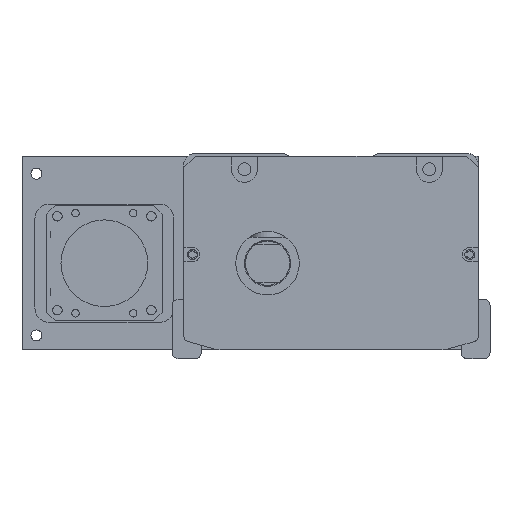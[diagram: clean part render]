
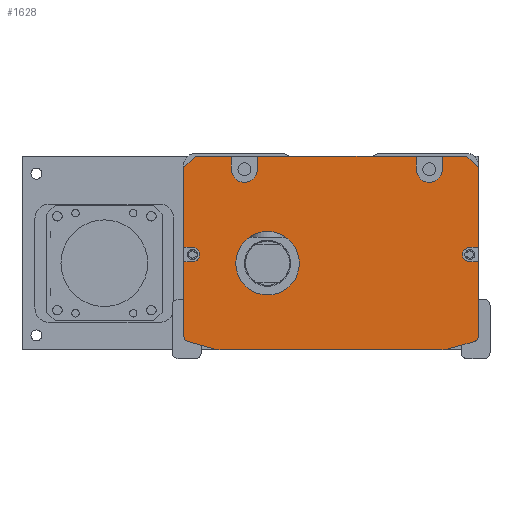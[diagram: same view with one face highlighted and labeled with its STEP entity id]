
A CAD part, front view. The second image highlights one B-rep face of the part: STEP entity #1628.
In plain terms, the highlighted planar face has unit normal (0, -1, 0).
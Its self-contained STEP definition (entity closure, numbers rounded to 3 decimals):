
#1628=ADVANCED_FACE('',(#4292,#4293),#2306,.F.);
#2306=PLANE('',#13565);
#2604=LINE('',#18821,#3405);
#2608=LINE('',#18829,#3409);
#2618=LINE('',#18850,#3419);
#2622=LINE('',#18858,#3423);
#2891=LINE('',#19851,#3692);
#2892=LINE('',#19853,#3693);
#2893=LINE('',#19855,#3694);
#2894=LINE('',#19859,#3695);
#2895=LINE('',#19861,#3696);
#2896=LINE('',#19863,#3697);
#2897=LINE('',#19867,#3698);
#2898=LINE('',#19869,#3699);
#2899=LINE('',#19871,#3700);
#2900=LINE('',#19872,#3701);
#2901=LINE('',#19876,#3702);
#2902=LINE('',#19879,#3703);
#2903=LINE('',#19883,#3704);
#2904=LINE('',#19887,#3705);
#2905=LINE('',#19890,#3706);
#2906=LINE('',#19894,#3707);
#3405=VECTOR('',#14809,1.);
#3409=VECTOR('',#14813,1.);
#3419=VECTOR('',#14825,1.);
#3423=VECTOR('',#14829,1.);
#3692=VECTOR('',#15894,1.);
#3693=VECTOR('',#15895,1.);
#3694=VECTOR('',#15896,1.);
#3695=VECTOR('',#15899,1.);
#3696=VECTOR('',#15900,1.);
#3697=VECTOR('',#15901,1.);
#3698=VECTOR('',#15904,1.);
#3699=VECTOR('',#15905,1.);
#3700=VECTOR('',#15906,1.);
#3701=VECTOR('',#15907,1.);
#3702=VECTOR('',#15910,1.);
#3703=VECTOR('',#15913,1.);
#3704=VECTOR('',#15916,1.);
#3705=VECTOR('',#15919,1.);
#3706=VECTOR('',#15922,1.);
#3707=VECTOR('',#15925,1.);
#4292=FACE_BOUND('',#4996,.T.);
#4293=FACE_BOUND('',#4997,.T.);
#4996=EDGE_LOOP('',(#6874,#6875,#6876,#6877,#6878,#6879,#6880,#6881,#6882,
#6883,#6884,#6885,#6886,#6887,#6888,#6889,#6890,#6891,#6892,#6893,#6894,
#6895,#6896,#6897,#6898,#6899,#6900,#6901));
#4997=EDGE_LOOP('',(#6902));
#6874=ORIENTED_EDGE('',*,*,#10758,.T.);
#6875=ORIENTED_EDGE('',*,*,#11242,.T.);
#6876=ORIENTED_EDGE('',*,*,#11243,.T.);
#6877=ORIENTED_EDGE('',*,*,#11244,.F.);
#6878=ORIENTED_EDGE('',*,*,#11245,.T.);
#6879=ORIENTED_EDGE('',*,*,#11246,.F.);
#6880=ORIENTED_EDGE('',*,*,#11247,.T.);
#6881=ORIENTED_EDGE('',*,*,#11248,.F.);
#6882=ORIENTED_EDGE('',*,*,#11249,.T.);
#6883=ORIENTED_EDGE('',*,*,#11250,.F.);
#6884=ORIENTED_EDGE('',*,*,#11251,.T.);
#6885=ORIENTED_EDGE('',*,*,#11252,.T.);
#6886=ORIENTED_EDGE('',*,*,#10776,.T.);
#6887=ORIENTED_EDGE('',*,*,#11253,.T.);
#6888=ORIENTED_EDGE('',*,*,#11254,.T.);
#6889=ORIENTED_EDGE('',*,*,#11255,.T.);
#6890=ORIENTED_EDGE('',*,*,#10772,.T.);
#6891=ORIENTED_EDGE('',*,*,#11256,.T.);
#6892=ORIENTED_EDGE('',*,*,#11257,.T.);
#6893=ORIENTED_EDGE('',*,*,#11258,.T.);
#6894=ORIENTED_EDGE('',*,*,#11259,.T.);
#6895=ORIENTED_EDGE('',*,*,#11260,.T.);
#6896=ORIENTED_EDGE('',*,*,#11261,.T.);
#6897=ORIENTED_EDGE('',*,*,#11262,.T.);
#6898=ORIENTED_EDGE('',*,*,#10762,.T.);
#6899=ORIENTED_EDGE('',*,*,#11263,.T.);
#6900=ORIENTED_EDGE('',*,*,#11264,.T.);
#6901=ORIENTED_EDGE('',*,*,#11265,.T.);
#6902=ORIENTED_EDGE('',*,*,#11266,.T.);
#9483=VERTEX_POINT('',#18820);
#9484=VERTEX_POINT('',#18822);
#9487=VERTEX_POINT('',#18828);
#9488=VERTEX_POINT('',#18830);
#9497=VERTEX_POINT('',#18849);
#9498=VERTEX_POINT('',#18851);
#9501=VERTEX_POINT('',#18857);
#9502=VERTEX_POINT('',#18859);
#9828=VERTEX_POINT('',#19852);
#9829=VERTEX_POINT('',#19854);
#9830=VERTEX_POINT('',#19856);
#9831=VERTEX_POINT('',#19858);
#9832=VERTEX_POINT('',#19860);
#9833=VERTEX_POINT('',#19862);
#9834=VERTEX_POINT('',#19864);
#9835=VERTEX_POINT('',#19866);
#9836=VERTEX_POINT('',#19868);
#9837=VERTEX_POINT('',#19870);
#9838=VERTEX_POINT('',#19873);
#9839=VERTEX_POINT('',#19875);
#9840=VERTEX_POINT('',#19878);
#9841=VERTEX_POINT('',#19880);
#9842=VERTEX_POINT('',#19882);
#9843=VERTEX_POINT('',#19884);
#9844=VERTEX_POINT('',#19886);
#9845=VERTEX_POINT('',#19888);
#9846=VERTEX_POINT('',#19891);
#9847=VERTEX_POINT('',#19893);
#9848=VERTEX_POINT('',#19896);
#10758=EDGE_CURVE('',#9484,#9483,#2604,.T.);
#10762=EDGE_CURVE('',#9488,#9487,#2608,.T.);
#10772=EDGE_CURVE('',#9498,#9497,#2618,.T.);
#10776=EDGE_CURVE('',#9502,#9501,#2622,.T.);
#11242=EDGE_CURVE('',#9483,#9828,#2891,.T.);
#11243=EDGE_CURVE('',#9828,#9829,#2892,.T.);
#11244=EDGE_CURVE('',#9830,#9829,#2893,.T.);
#11245=EDGE_CURVE('',#9830,#9831,#12636,.T.);
#11246=EDGE_CURVE('',#9832,#9831,#2894,.T.);
#11247=EDGE_CURVE('',#9832,#9833,#2895,.T.);
#11248=EDGE_CURVE('',#9834,#9833,#2896,.T.);
#11249=EDGE_CURVE('',#9834,#9835,#12637,.T.);
#11250=EDGE_CURVE('',#9836,#9835,#2897,.T.);
#11251=EDGE_CURVE('',#9836,#9837,#2898,.T.);
#11252=EDGE_CURVE('',#9837,#9502,#2899,.T.);
#11253=EDGE_CURVE('',#9501,#9838,#2900,.T.);
#11254=EDGE_CURVE('',#9838,#9839,#12638,.T.);
#11255=EDGE_CURVE('',#9839,#9498,#2901,.T.);
#11256=EDGE_CURVE('',#9497,#9840,#12639,.T.);
#11257=EDGE_CURVE('',#9840,#9841,#2902,.T.);
#11258=EDGE_CURVE('',#9841,#9842,#12640,.T.);
#11259=EDGE_CURVE('',#9842,#9843,#2903,.T.);
#11260=EDGE_CURVE('',#9843,#9844,#12641,.T.);
#11261=EDGE_CURVE('',#9844,#9845,#2904,.T.);
#11262=EDGE_CURVE('',#9845,#9488,#12642,.T.);
#11263=EDGE_CURVE('',#9487,#9846,#2905,.T.);
#11264=EDGE_CURVE('',#9846,#9847,#12643,.T.);
#11265=EDGE_CURVE('',#9847,#9484,#2906,.T.);
#11266=EDGE_CURVE('',#9848,#9848,#12644,.T.);
#12636=CIRCLE('',#13556,4.5);
#12637=CIRCLE('',#13557,4.5);
#12638=CIRCLE('',#13558,2.5);
#12639=CIRCLE('',#13559,2.);
#12640=CIRCLE('',#13560,10.);
#12641=CIRCLE('',#13561,10.);
#12642=CIRCLE('',#13562,2.);
#12643=CIRCLE('',#13563,2.5);
#12644=CIRCLE('',#13564,11.);
#13556=AXIS2_PLACEMENT_3D('',#19857,#15897,#15898);
#13557=AXIS2_PLACEMENT_3D('',#19865,#15902,#15903);
#13558=AXIS2_PLACEMENT_3D('',#19874,#15908,#15909);
#13559=AXIS2_PLACEMENT_3D('',#19877,#15911,#15912);
#13560=AXIS2_PLACEMENT_3D('',#19881,#15914,#15915);
#13561=AXIS2_PLACEMENT_3D('',#19885,#15917,#15918);
#13562=AXIS2_PLACEMENT_3D('',#19889,#15920,#15921);
#13563=AXIS2_PLACEMENT_3D('',#19892,#15923,#15924);
#13564=AXIS2_PLACEMENT_3D('',#19895,#15926,#15927);
#13565=AXIS2_PLACEMENT_3D('',#19897,#15928,#15929);
#14809=DIRECTION('',(0.,0.,1.));
#14813=DIRECTION('',(0.,0.,1.));
#14825=DIRECTION('',(0.,0.,-1.));
#14829=DIRECTION('',(0.,0.,-1.));
#15894=DIRECTION('',(-0.707,0.,0.707));
#15895=DIRECTION('',(-1.,0.,0.));
#15896=DIRECTION('',(0.,0.,1.));
#15897=DIRECTION('',(0.,1.,0.));
#15898=DIRECTION('',(0.,0.,1.));
#15899=DIRECTION('',(0.,0.,-1.));
#15900=DIRECTION('',(-1.,0.,0.));
#15901=DIRECTION('',(0.,0.,1.));
#15902=DIRECTION('',(0.,1.,0.));
#15903=DIRECTION('',(0.,0.,1.));
#15904=DIRECTION('',(0.,0.,-1.));
#15905=DIRECTION('',(-1.,0.,0.));
#15906=DIRECTION('',(-0.707,0.,-0.707));
#15907=DIRECTION('',(1.,0.,0.));
#15908=DIRECTION('',(0.,1.,0.));
#15909=DIRECTION('',(0.,0.,1.));
#15910=DIRECTION('',(-1.,0.,0.));
#15911=DIRECTION('',(0.,-1.,0.));
#15912=DIRECTION('',(0.,0.,1.));
#15913=DIRECTION('',(0.963,0.,-0.269));
#15914=DIRECTION('',(0.,-1.,0.));
#15915=DIRECTION('',(0.,0.,1.));
#15916=DIRECTION('',(1.,0.,0.));
#15917=DIRECTION('',(0.,-1.,0.));
#15918=DIRECTION('',(0.,0.,-1.));
#15919=DIRECTION('',(0.963,0.,0.269));
#15920=DIRECTION('',(0.,-1.,0.));
#15921=DIRECTION('',(0.,0.,-1.));
#15922=DIRECTION('',(-1.,0.,0.));
#15923=DIRECTION('',(0.,1.,0.));
#15924=DIRECTION('',(0.,0.,1.));
#15925=DIRECTION('',(1.,0.,0.));
#15926=DIRECTION('',(0.,1.,0.));
#15927=DIRECTION('',(0.,0.,1.));
#15928=DIRECTION('',(0.,1.,0.));
#15929=DIRECTION('',(1.,0.,0.));
#18820=CARTESIAN_POINT('',(47.808,-317.5,-5.));
#18821=CARTESIAN_POINT('',(47.808,-317.5,-1.));
#18822=CARTESIAN_POINT('',(47.808,-317.5,-32.5));
#18828=CARTESIAN_POINT('',(47.808,-317.5,-37.5));
#18829=CARTESIAN_POINT('',(47.808,-317.5,-1.));
#18830=CARTESIAN_POINT('',(47.808,-317.5,-63.212));
#18849=CARTESIAN_POINT('',(-54.192,-317.5,-63.212));
#18850=CARTESIAN_POINT('',(-54.192,-317.5,-62.));
#18851=CARTESIAN_POINT('',(-54.192,-317.5,-37.5));
#18857=CARTESIAN_POINT('',(-54.192,-317.5,-32.5));
#18858=CARTESIAN_POINT('',(-54.192,-317.5,-62.));
#18859=CARTESIAN_POINT('',(-54.192,-317.5,-5.));
#19851=CARTESIAN_POINT('',(43.808,-317.5,-1.));
#19852=CARTESIAN_POINT('',(43.808,-317.5,-1.));
#19853=CARTESIAN_POINT('',(-3.192,-317.5,-1.));
#19854=CARTESIAN_POINT('',(35.308,-317.5,-1.));
#19855=CARTESIAN_POINT('',(35.308,-317.5,-1.));
#19856=CARTESIAN_POINT('',(35.308,-317.5,-5.5));
#19857=CARTESIAN_POINT('',(30.808,-317.5,-5.5));
#19858=CARTESIAN_POINT('',(26.308,-317.5,-5.5));
#19859=CARTESIAN_POINT('',(26.308,-317.5,-1.));
#19860=CARTESIAN_POINT('',(26.308,-317.5,-1.));
#19861=CARTESIAN_POINT('',(-54.192,-317.5,-1.));
#19862=CARTESIAN_POINT('',(-28.692,-317.5,-1.));
#19863=CARTESIAN_POINT('',(-28.692,-317.5,-3.5));
#19864=CARTESIAN_POINT('',(-28.692,-317.5,-5.5));
#19865=CARTESIAN_POINT('',(-33.192,-317.5,-5.5));
#19866=CARTESIAN_POINT('',(-37.692,-317.5,-5.5));
#19867=CARTESIAN_POINT('',(-37.692,-317.5,-1.));
#19868=CARTESIAN_POINT('',(-37.692,-317.5,-1.));
#19869=CARTESIAN_POINT('',(-54.192,-317.5,-1.));
#19870=CARTESIAN_POINT('',(-50.192,-317.5,-1.));
#19871=CARTESIAN_POINT('',(-54.192,-317.5,-5.));
#19872=CARTESIAN_POINT('',(-3.192,-317.5,-32.5));
#19873=CARTESIAN_POINT('',(-51.192,-317.5,-32.5));
#19874=CARTESIAN_POINT('',(-51.192,-317.5,-35.));
#19875=CARTESIAN_POINT('',(-51.192,-317.5,-37.5));
#19876=CARTESIAN_POINT('',(-3.192,-317.5,-37.5));
#19877=CARTESIAN_POINT('',(-52.192,-317.5,-63.212));
#19878=CARTESIAN_POINT('',(-52.731,-317.5,-65.138));
#19879=CARTESIAN_POINT('',(-55.807,-317.5,-64.279));
#19880=CARTESIAN_POINT('',(-43.809,-317.5,-67.631));
#19881=CARTESIAN_POINT('',(-41.118,-317.5,-58.));
#19882=CARTESIAN_POINT('',(-41.118,-317.5,-68.));
#19883=CARTESIAN_POINT('',(-54.692,-317.5,-68.));
#19884=CARTESIAN_POINT('',(34.733,-317.5,-68.));
#19885=CARTESIAN_POINT('',(34.733,-317.5,-58.));
#19886=CARTESIAN_POINT('',(37.424,-317.5,-67.631));
#19887=CARTESIAN_POINT('',(49.422,-317.5,-64.279));
#19888=CARTESIAN_POINT('',(46.346,-317.5,-65.138));
#19889=CARTESIAN_POINT('',(45.808,-317.5,-63.212));
#19890=CARTESIAN_POINT('',(-3.192,-317.5,-37.5));
#19891=CARTESIAN_POINT('',(44.808,-317.5,-37.5));
#19892=CARTESIAN_POINT('',(44.808,-317.5,-35.));
#19893=CARTESIAN_POINT('',(44.808,-317.5,-32.5));
#19894=CARTESIAN_POINT('',(-3.192,-317.5,-32.5));
#19895=CARTESIAN_POINT('',(-25.192,-317.5,-38.));
#19896=CARTESIAN_POINT('',(-25.192,-317.5,-27.));
#19897=CARTESIAN_POINT('',(-3.192,-317.5,-1.));
